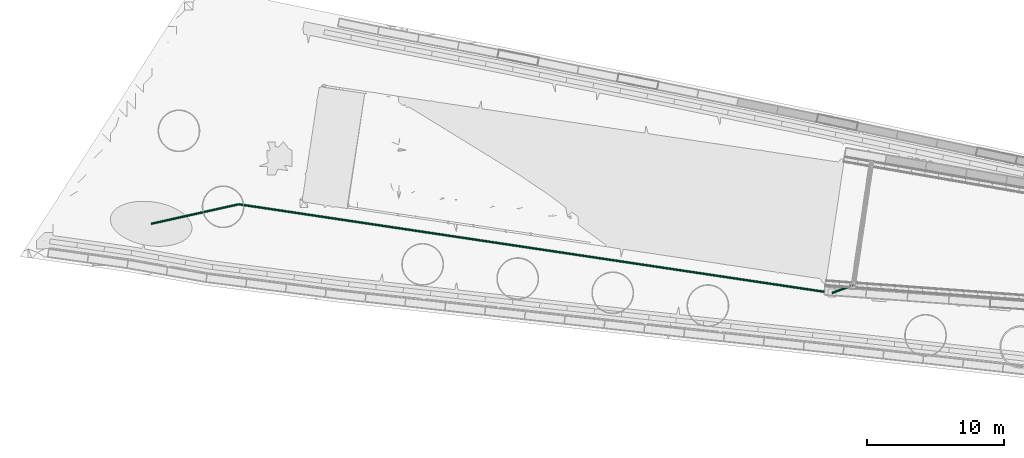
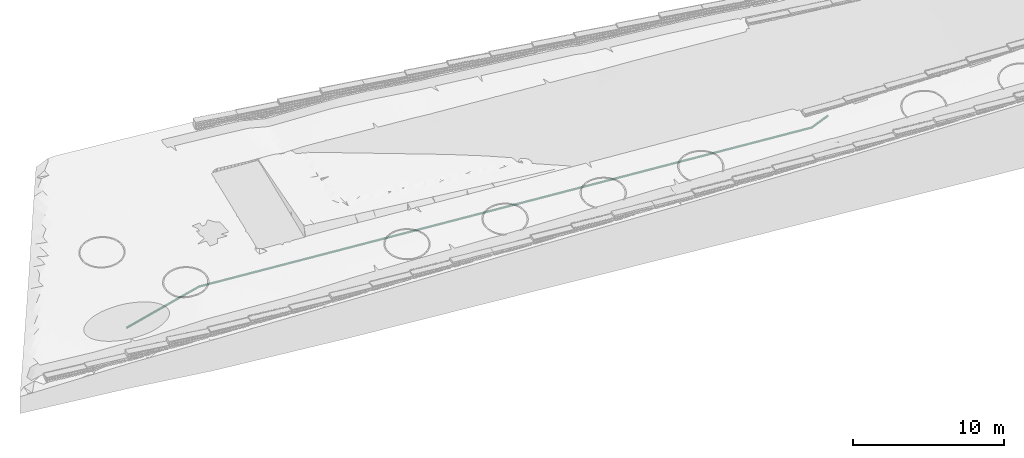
# Not in any storey, part 7 of 46: 3 pipe segments.
"""IFC4 model written with IfcOpenShell, lengths in metres."""

from ifc_helpers import new_model, si_unit, direction, frame, origin_with_axes, place, context, subcontext, project, spatial, circle, extrude, material, material_profile, profile_set, profile_usage, type_object, element, save


model = new_model("IFC4")

# Units and contexts
model_context = context("Model", 3, precision=1e-05, world=origin_with_axes(), true_north=direction((0.0, 1.0)))
body_context = subcontext(model_context, "Body", "Model", "MODEL_VIEW")
ifc_project = project(units=[si_unit("VOLUMEUNIT", "CUBIC_METRE"), si_unit("LENGTHUNIT", "METRE"), si_unit("AREAUNIT", "SQUARE_METRE")], contexts=[model_context])

# Site
site_placement = place(None, origin_with_axes())
site = spatial("IfcSite", under=ifc_project, at=site_placement, Name="Lares · Rua das Mercês · artigo 4771")

# Pipe segments
ifc_material = material(Name="Caleiras · betão", Category="concrete")
ifc_material_profile = material_profile(ifc_material, circle(Radius=0.08))
ifc_profile_set = profile_set([ifc_material_profile], Name="D0.16")
ifc_profile_usage_1 = profile_usage(ifc_profile_set)
pipe_segment_type = type_object("IfcPipeSegmentType", Name="D0.16 / drain", PredefinedType="NOTDEFINED", material=ifc_profile_set)
pipe_segment_1_placement = place(site_placement, frame((48.6078367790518, 2.79748059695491, 13.14), z_axis=(-0.9392433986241, -0.341131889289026, -0.0380903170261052), x_axis=(-0.341379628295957, 0.939925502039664, 0.0)))
element("IfcPipeSegment", 1, at=pipe_segment_1_placement, inside=site, type_object=pipe_segment_type, material=ifc_profile_usage_1, Name="Acesso · coletor separado da cisterna", context=body_context, shape_type="SweptSolid", body=[
    extrude(circle(Radius=0.08), origin_with_axes(), (0.0, 0.0, 1.0), 1.66071052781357),
])
ifc_profile_usage_2 = profile_usage(ifc_profile_set)
pipe_segment_2_placement = place(site_placement, frame((47.0480253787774, 2.23095927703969, 13.076743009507), z_axis=(-0.988298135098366, 0.147702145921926, -0.0380903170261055), x_axis=(0.147809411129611, 0.989015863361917, 1.05798645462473e-18)))
element("IfcPipeSegment", 2, at=pipe_segment_2_placement, inside=site, type_object=pipe_segment_type, material=ifc_profile_usage_2, Name="Acesso · coletor separado da cisterna", context=body_context, shape_type="SweptSolid", body=[
    extrude(circle(Radius=0.08), origin_with_axes(), (0.0, 0.0, 1.0), 43.7317360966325),
])
ifc_profile_usage_3 = profile_usage(ifc_profile_set)
pipe_segment_3_placement = place(site_placement, frame((3.82803214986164, 8.69023054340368, 11.4109873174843), z_axis=(-0.975326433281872, -0.217456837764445, -0.0380903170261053), x_axis=(-0.217614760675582, 0.976034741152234, 0.0)))
element("IfcPipeSegment", 3, at=pipe_segment_3_placement, inside=site, type_object=pipe_segment_type, material=ifc_profile_usage_3, Name="Acesso · coletor separado da cisterna", context=body_context, shape_type="SweptSolid", body=[
    extrude(circle(Radius=0.08), origin_with_axes(), (0.0, 0.0, 1.0), 6.54175736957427),
])

save(model, "model.ifc")
